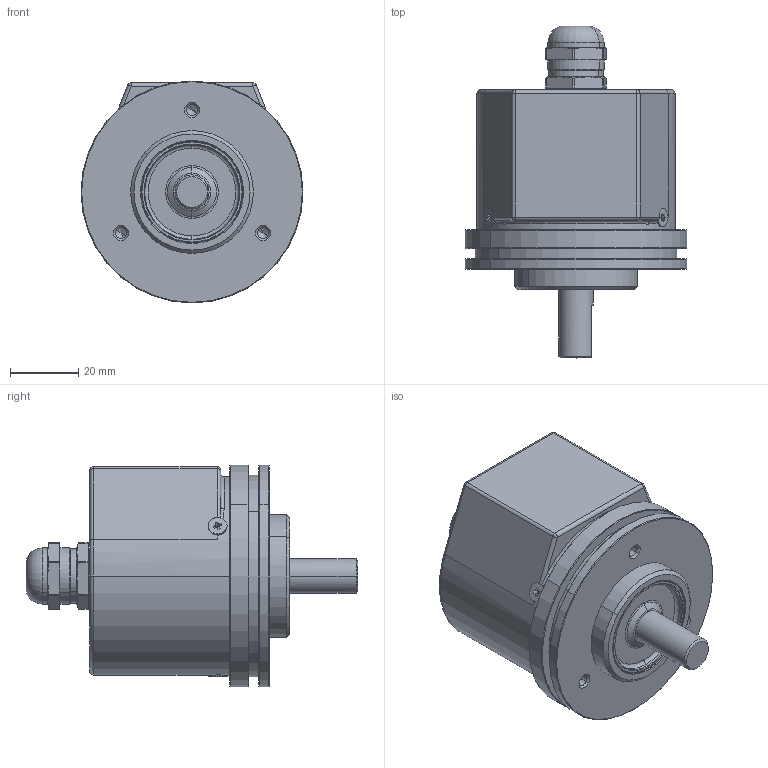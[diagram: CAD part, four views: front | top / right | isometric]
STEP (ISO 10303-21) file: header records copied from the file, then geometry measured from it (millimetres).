
FILE_DESCRIPTION (( 'STEP AP214' ), '1' );
FILE_NAME ('MS13xx9.STEP', '2026-06-03T14:02:40', ( '' ), ( '' ), 'SwSTEP 2.0', 'SolidWorks 2019', '' );
FILE_SCHEMA (( 'AUTOMOTIVE_DESIGN' ));
Length unit declared in the file: millimetre
Products named in the file (1): MS13xx9
Bounding box: 65 x 97.21 x 65 mm (x, y, z)
Volume: 88525.9 mm3; surface area: 38557.2 mm2
Topology: 4 solids, 5 shells, 446 faces, 1000 edges, 580 vertices
Faces by surface type: cone 144, cylinder 131, plane 123, sphere 22, torus 16, bspline 10
Entity records: 17727 total; most frequent: CARTESIAN_POINT 2909, DIRECTION 2223, ORIENTED_EDGE 1936, EDGE_CURVE 968, AXIS2_PLACEMENT_3D 918, VERTEX_POINT 580, EDGE_LOOP 494, CIRCLE 481
